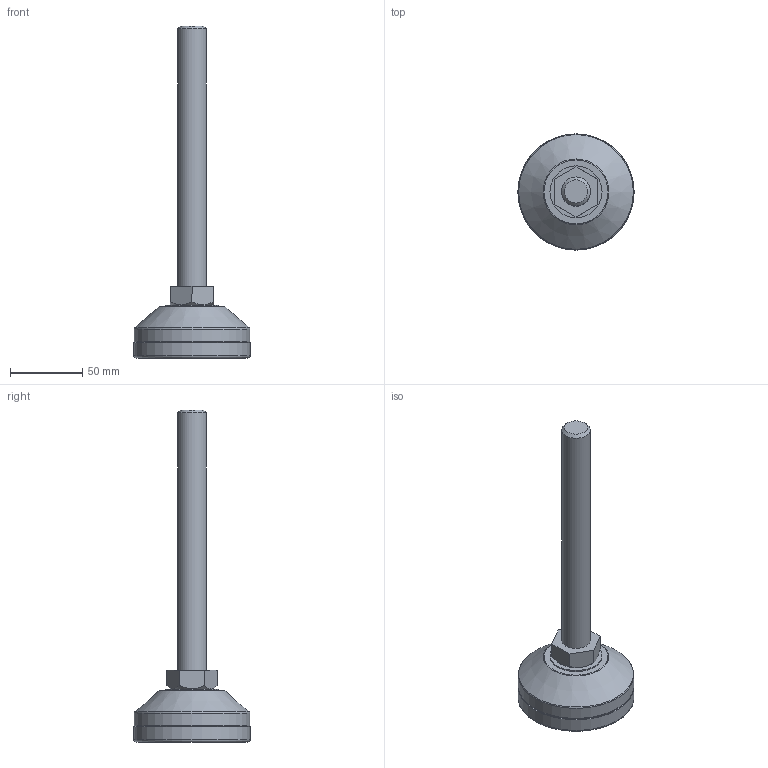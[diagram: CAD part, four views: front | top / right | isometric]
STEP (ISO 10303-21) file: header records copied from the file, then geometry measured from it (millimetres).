
FILE_DESCRIPTION(/* description */ (''),/* implementation_level */ '2;1');
FILE_NAME(/* name */ 'D:\조절자\FR\FR-M20-180L.stp',/* time_stamp */ '2016-03-14T14:36:52+09:00',/* author */ ('GS-DT-1-001'),/* organization */ (''),/* preprocessor_version */ 'ST-DEVELOPER v15.6',/* originating_system */ 'Autodesk Inventor LT ',/* authorisation */ '');
FILE_SCHEMA (('AUTOMOTIVE_DESIGN { 1 0 10303 214 3 1 1 }'));
Length unit declared in the file: millimetre
Products named in the file (1): FR-M20-180L
Bounding box: 80.4 x 80.4 x 229.5 mm (x, y, z)
Volume: 208441.9 mm3; surface area: 49508.9 mm2
Topology: 5 solids, 5 shells, 68 faces, 118 edges, 72 vertices
Faces by surface type: plane 28, torus 15, cylinder 15, cone 10
Full cylindrical faces by diameter (mm): 6.912 x1, 8 x1, 8.2 x1, 8.3 x1, 16 x1, 20 x1, 30 x1, 36 x1, 50 x1, 57 x1, 61 x1, 71 x1, 75 x1, 80 x1, 80.4 x1
Entity records: 1424 total; most frequent: DIRECTION 266, CARTESIAN_POINT 227, ORIENTED_EDGE 152, AXIS2_PLACEMENT_3D 127, EDGE_LOOP 124, EDGE_CURVE 76, VERTEX_POINT 70, FACE_OUTER_BOUND 68
